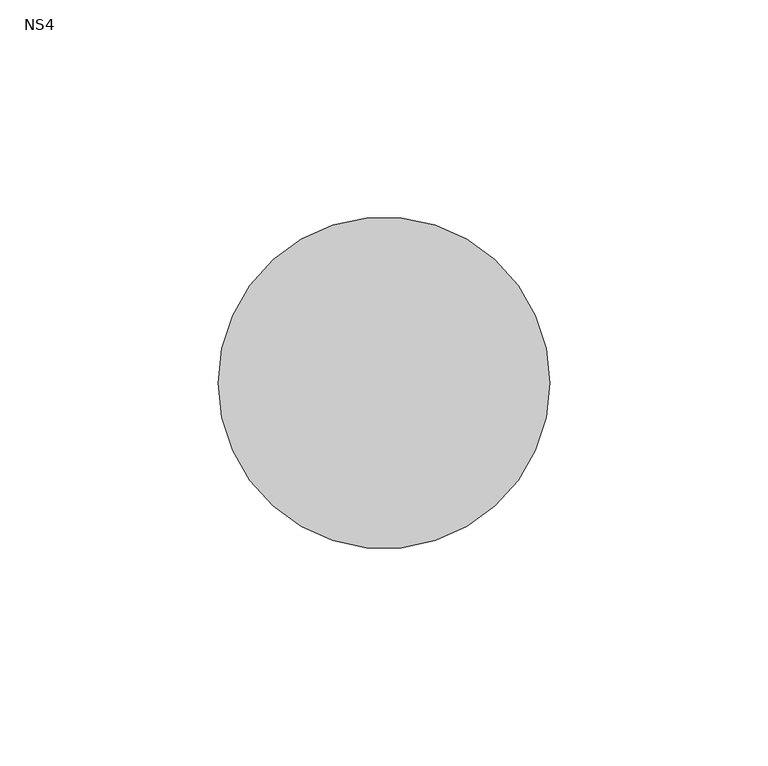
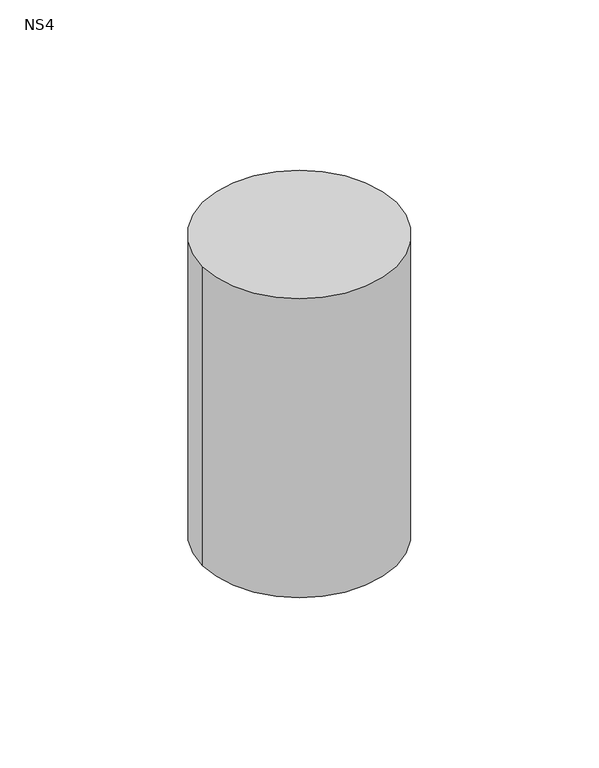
"""IFC4 building model written with IfcOpenShell, lengths in millimetres: unitary equipment geometry, ME_ST_UN_LipuJet-S-RD extension stage 1_ACO : NS4."""

from ifc_helpers import new_model, si_unit, point, frame, frame_2d, origin, place, context, project, spatial, circle_curve, trimmed, segment, composite_curve, outline, extrude, source, transform, mapped, element, save


def ns4_fcfb2e82(model_context):
    return source(origin(), model_context, "Body", "SweptSolid", [
        extrude(outline(composite_curve([segment(trimmed(circle_curve(frame_2d((200.0, 346.41)), 38.0), [point((162.0, 346.41))], [point((238.0, 346.41))], False, "CARTESIAN"), True, "CONTINUOUS"), segment(trimmed(circle_curve(frame_2d((200.0, 346.41)), 38.0), [point((238.0, 346.41))], [point((162.0, 346.41))], False, "CARTESIAN"), True, "CONTINUOUS")], self_intersect=False)), frame((0.0, 0.0, 1402.5), z_axis=(0.0, 0.0, 1.0), x_axis=(1.0, 0.0, 0.0)), (0.0, 0.0, 1.0), 124.0),
    ])


if __name__ == "__main__":
    model = new_model("IFC4")
    model_context = context("Model", 3, world=origin())
    ifc_project = project(units=[si_unit("LENGTHUNIT", "METRE", prefix="MILLI")], contexts=[model_context])
    site = spatial("IfcSite", under=ifc_project)
    building = spatial("IfcBuilding", under=site)
    placement = place(None, origin())
    ns4_shape = ns4_fcfb2e82(model_context)
    element("IfcUnitaryEquipment", 1, ObjectType="ME_ST_UN_LipuJet-S-RD extension stage 1_ACO : NS4", at=placement, inside=building, context=model_context, shape_type="MappedRepresentation", body=[
        mapped(ns4_shape, transform((0.0, 0.0, 0.0), x_axis=(1.0, 0.0, 0.0), y_axis=(0.0, 1.0, 0.0), z_axis=(0.0, 0.0, 1.0))),
    ])
    save(model, "model.ifc")
